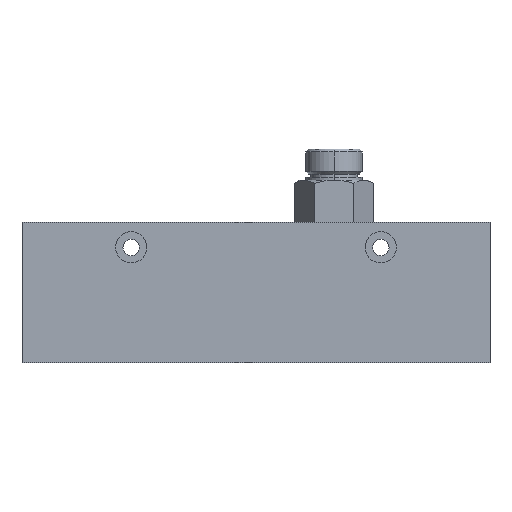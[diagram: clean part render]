
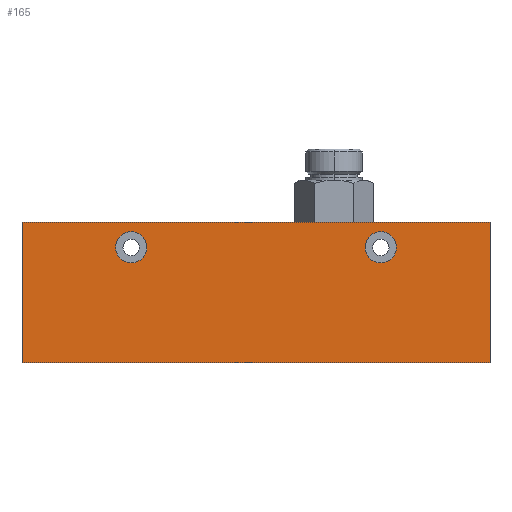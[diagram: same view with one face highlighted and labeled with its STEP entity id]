
A CAD part, top view. The second image highlights one B-rep face of the part: STEP entity #165.
In plain terms, the highlighted planar face has unit normal (0, 0, 1).
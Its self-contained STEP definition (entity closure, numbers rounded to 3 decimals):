
#165 = ADVANCED_FACE( '', ( #308, #309, #310 ), #311, .T. );
#308 = FACE_OUTER_BOUND( '', #505, .T. );
#309 = FACE_BOUND( '', #506, .T. );
#310 = FACE_BOUND( '', #507, .T. );
#311 = PLANE( '', #508 );
#505 = EDGE_LOOP( '', ( #918, #919, #920, #921 ) );
#506 = EDGE_LOOP( '', ( #922, #923 ) );
#507 = EDGE_LOOP( '', ( #924, #925 ) );
#508 = AXIS2_PLACEMENT_3D( '', #926, #927, #928 );
#918 = ORIENTED_EDGE( '', *, *, #1371, .T. );
#919 = ORIENTED_EDGE( '', *, *, #1358, .T. );
#920 = ORIENTED_EDGE( '', *, *, #1367, .T. );
#921 = ORIENTED_EDGE( '', *, *, #1370, .T. );
#922 = ORIENTED_EDGE( '', *, *, #1285, .F. );
#923 = ORIENTED_EDGE( '', *, *, #1362, .F. );
#924 = ORIENTED_EDGE( '', *, *, #1289, .F. );
#925 = ORIENTED_EDGE( '', *, *, #1361, .F. );
#926 = CARTESIAN_POINT( '', ( 0., 0., 14. ) );
#927 = DIRECTION( '', ( 0., 0., 1. ) );
#928 = DIRECTION( '', ( 1., 0., 0. ) );
#1285 = EDGE_CURVE( '', #1495, #1498, #1499, .T. );
#1289 = EDGE_CURVE( '', #1503, #1506, #1507, .T. );
#1358 = EDGE_CURVE( '', #1617, #1614, #1618, .T. );
#1361 = EDGE_CURVE( '', #1506, #1503, #1622, .T. );
#1362 = EDGE_CURVE( '', #1498, #1495, #1623, .T. );
#1367 = EDGE_CURVE( '', #1614, #1628, #1630, .T. );
#1370 = EDGE_CURVE( '', #1628, #1633, #1635, .T. );
#1371 = EDGE_CURVE( '', #1633, #1617, #1636, .T. );
#1495 = VERTEX_POINT( '', #1832 );
#1498 = VERTEX_POINT( '', #1836 );
#1499 = CIRCLE( '', #1837, 5. );
#1503 = VERTEX_POINT( '', #1842 );
#1506 = VERTEX_POINT( '', #1846 );
#1507 = CIRCLE( '', #1847, 5. );
#1614 = VERTEX_POINT( '', #2110 );
#1617 = VERTEX_POINT( '', #2114 );
#1618 = LINE( '', #2115, #2116 );
#1622 = CIRCLE( '', #2122, 5. );
#1623 = CIRCLE( '', #2123, 5. );
#1628 = VERTEX_POINT( '', #2129 );
#1630 = LINE( '', #2132, #2133 );
#1633 = VERTEX_POINT( '', #2137 );
#1635 = LINE( '', #2140, #2141 );
#1636 = LINE( '', #2142, #2143 );
#1832 = CARTESIAN_POINT( '', ( 45., 14.5, 14. ) );
#1836 = CARTESIAN_POINT( '', ( 35., 14.5, 14. ) );
#1837 = AXIS2_PLACEMENT_3D( '', #2489, #2490, #2491 );
#1842 = CARTESIAN_POINT( '', ( -35., 14.5, 14. ) );
#1846 = CARTESIAN_POINT( '', ( -45., 14.5, 14. ) );
#1847 = AXIS2_PLACEMENT_3D( '', #2497, #2498, #2499 );
#2110 = CARTESIAN_POINT( '', ( 75., 22.5, 14. ) );
#2114 = CARTESIAN_POINT( '', ( 75., -22.5, 14. ) );
#2115 = CARTESIAN_POINT( '', ( 75., -22.5, 14. ) );
#2116 = VECTOR( '', #2642, 1. );
#2122 = AXIS2_PLACEMENT_3D( '', #2645, #2646, #2647 );
#2123 = AXIS2_PLACEMENT_3D( '', #2648, #2649, #2650 );
#2129 = CARTESIAN_POINT( '', ( -75., 22.5, 14. ) );
#2132 = CARTESIAN_POINT( '', ( 75., 22.5, 14. ) );
#2133 = VECTOR( '', #2659, 1. );
#2137 = CARTESIAN_POINT( '', ( -75., -22.5, 14. ) );
#2140 = CARTESIAN_POINT( '', ( -75., 22.5, 14. ) );
#2141 = VECTOR( '', #2662, 1. );
#2142 = CARTESIAN_POINT( '', ( -75., -22.5, 14. ) );
#2143 = VECTOR( '', #2663, 1. );
#2489 = CARTESIAN_POINT( '', ( 40., 14.5, 14. ) );
#2490 = DIRECTION( '', ( 0., 0., 1. ) );
#2491 = DIRECTION( '', ( 1., 0., 0. ) );
#2497 = CARTESIAN_POINT( '', ( -40., 14.5, 14. ) );
#2498 = DIRECTION( '', ( 0., 0., 1. ) );
#2499 = DIRECTION( '', ( 1., 0., 0. ) );
#2642 = DIRECTION( '', ( 0., 1., 0. ) );
#2645 = CARTESIAN_POINT( '', ( -40., 14.5, 14. ) );
#2646 = DIRECTION( '', ( 0., 0., 1. ) );
#2647 = DIRECTION( '', ( 1., 0., 0. ) );
#2648 = CARTESIAN_POINT( '', ( 40., 14.5, 14. ) );
#2649 = DIRECTION( '', ( 0., 0., 1. ) );
#2650 = DIRECTION( '', ( 1., 0., 0. ) );
#2659 = DIRECTION( '', ( -1., 0., 0. ) );
#2662 = DIRECTION( '', ( 0., -1., 0. ) );
#2663 = DIRECTION( '', ( 1., 0., 0. ) );
